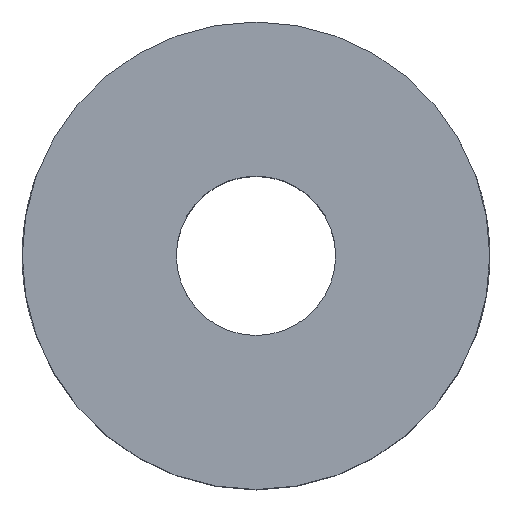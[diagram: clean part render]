
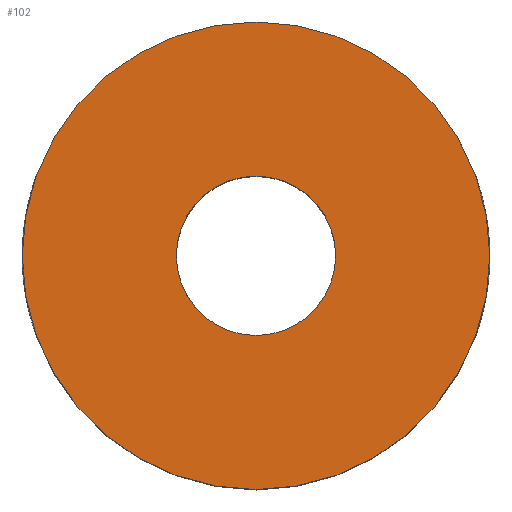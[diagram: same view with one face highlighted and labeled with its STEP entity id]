
A CAD part, top view. The second image highlights one B-rep face of the part: STEP entity #102.
In plain terms, the highlighted planar face has unit normal (0, 0, 1).
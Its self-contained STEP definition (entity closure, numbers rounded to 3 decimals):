
#15=PLANE('',#114);
#18=CIRCLE('',#110,3.324);
#19=CIRCLE('',#112,9.75);
#29=FACE_BOUND('',#50,.T.);
#35=FACE_OUTER_BOUND('',#49,.T.);
#49=EDGE_LOOP('',(#90));
#50=EDGE_LOOP('',(#91));
#64=VERTEX_POINT('',#324);
#65=VERTEX_POINT('',#327);
#73=EDGE_CURVE('',#64,#64,#18,.T.);
#74=EDGE_CURVE('',#65,#65,#19,.T.);
#90=ORIENTED_EDGE('',*,*,#74,.F.);
#91=ORIENTED_EDGE('',*,*,#73,.T.);
#102=ADVANCED_FACE('',(#35,#29),#15,.F.);
#110=AXIS2_PLACEMENT_3D('',#325,#126,#127);
#112=AXIS2_PLACEMENT_3D('',#328,#130,#131);
#114=AXIS2_PLACEMENT_3D('',#331,#134,#135);
#126=DIRECTION('center_axis',(0.,0.,-1.));
#127=DIRECTION('ref_axis',(1.,0.,0.));
#130=DIRECTION('center_axis',(0.,0.,-1.));
#131=DIRECTION('ref_axis',(-1.,0.,0.));
#134=DIRECTION('center_axis',(0.,0.,-1.));
#135=DIRECTION('ref_axis',(-1.,0.,0.));
#324=CARTESIAN_POINT('',(3.324,0.,10.));
#325=CARTESIAN_POINT('Origin',(0.,0.,10.));
#327=CARTESIAN_POINT('',(9.75,0.,10.));
#328=CARTESIAN_POINT('Origin',(0.,0.,10.));
#331=CARTESIAN_POINT('Origin',(0.,0.,10.));
